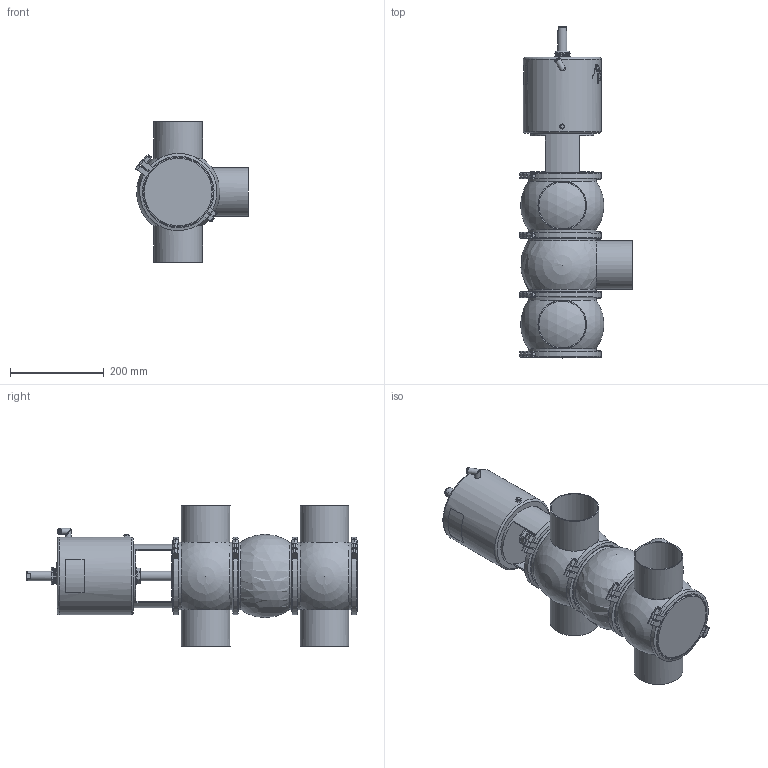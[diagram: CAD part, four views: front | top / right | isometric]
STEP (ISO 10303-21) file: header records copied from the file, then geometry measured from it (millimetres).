
FILE_DESCRIPTION (( 'STEP AP214' ), '1' );
FILE_NAME ('INNOVA L W W DIN 100 T4 AS NC_10.241.16.0028.STEP', '2024-08-07T07:08:09', ( '' ), ( '' ), 'SwSTEP 2.0', 'SolidWorks 2023', '' );
FILE_SCHEMA (( 'AUTOMOTIVE_DESIGN' ));
Length unit declared in the file: millimetre
Products named in the file (7): 10.241.15.0001_DIN 100; 10.240.15.0010_DN 100; 10.240.15.0001_DN 100; 10.240.15.0007_DIN 100; 10.240.15.0006_DIN 100; INNOVA L W W DIN 100 T4 AS NC_10.241.16.0028; 10.240.15.0014_T4 AS P180
Assembly tree (10 placements, depth 2):
  INNOVA L W W DIN 100 T4 AS NC_10.241.16.0028
    10.240.15.0007_DIN 100  x2
    10.240.15.0006_DIN 100
    10.240.15.0010_DN 100
    10.240.15.0014_T4 AS P180
    10.240.15.0001_DN 100  x4
    10.241.15.0001_DIN 100
Bounding box: 241.26 x 709.5 x 300 mm (x, y, z)
Volume: 12458858.3 mm3; surface area: 966046.4 mm2
Topology: 11 solids, 11 shells, 542 faces, 1448 edges, 943 vertices
Faces by surface type: plane 262, cylinder 140, bspline 80, cone 46, sphere 10, torus 4
Full cylindrical faces by diameter (mm): 6.15 x1, 8 x9, 8.5 x1, 10.5 x1, 12.5 x3, 16 x1, 20 x2, 31 x1, 34.5 x2, 36.5 x1, 100 x5, 104 x5, 135 x1, 144.5 x7, 156.5 x8, 166 x1
Entity records: 20850 total; most frequent: CARTESIAN_POINT 11360, ORIENTED_EDGE 1646, DIRECTION 1287, EDGE_CURVE 823, VERTEX_POINT 568, AXIS2_PLACEMENT_3D 499, EDGE_LOOP 427, FACE_OUTER_BOUND 385
